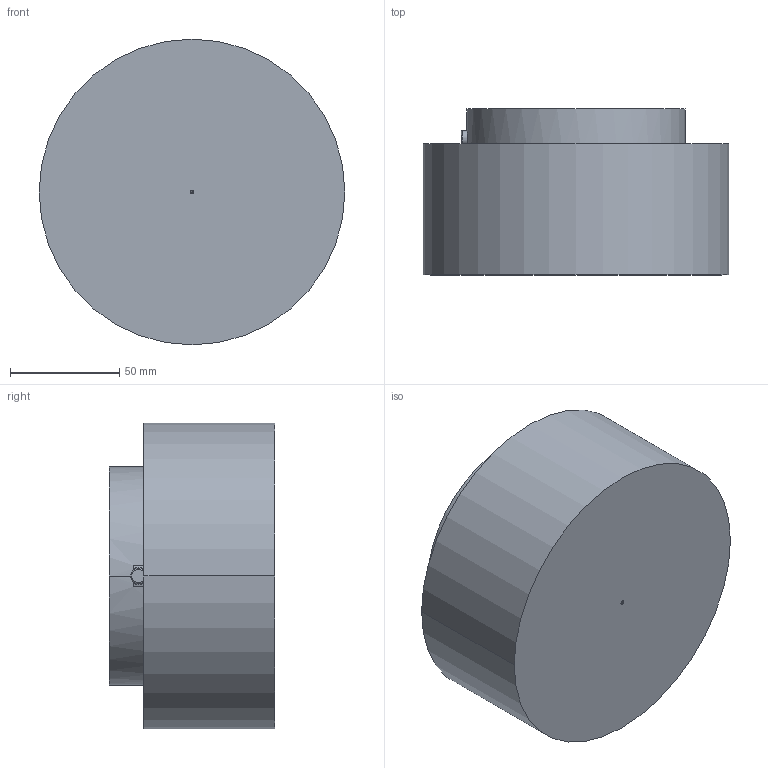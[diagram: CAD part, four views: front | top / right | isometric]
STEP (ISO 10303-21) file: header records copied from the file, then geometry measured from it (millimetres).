
FILE_DESCRIPTION((''),'2;1');
FILE_NAME('S44G103.stp','2020-02-25T14:59:10',(''),(''),'AutoCAD STEP 2000i','AutoCAD 2000i',', , ');
FILE_SCHEMA(('CONFIG_CONTROL_DESIGN'));
Length unit declared in the file: millimetre
Products named in the file (4): S44G103; MOLD BODY 101G44; NOZZLE S101G44; RING 44-2018
Assembly tree (3 placements, depth 2):
  S44G103
    MOLD BODY 101G44
    NOZZLE S101G44
    RING 44-2018
Bounding box: 140 x 76 x 140 mm (x, y, z)
Volume: 1029487.8 mm3; surface area: 99605.8 mm2
Topology: 3 solids, 3 shells, 153 faces, 359 edges, 227 vertices
Faces by surface type: cylinder 62, cone 42, plane 27, bspline 14, torus 8
Entity records: 5127 total; most frequent: CARTESIAN_POINT 1333, DIRECTION 868, ORIENTED_EDGE 710, AXIS2_PLACEMENT_3D 377, EDGE_CURVE 355, CIRCLE 234, VERTEX_POINT 227, EDGE_LOOP 182
